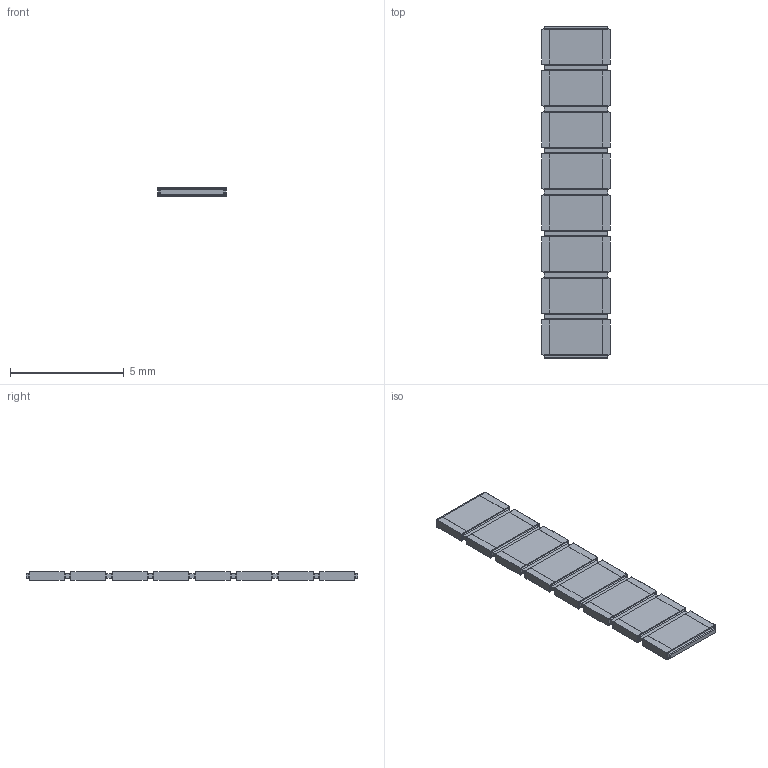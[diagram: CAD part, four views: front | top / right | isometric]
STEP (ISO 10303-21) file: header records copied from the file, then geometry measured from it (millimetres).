
FILE_DESCRIPTION(/* description */ (''),/* implementation_level */ '2;1');
FILE_NAME(/* name */ 'S:\DOCUMENT\AUTOCAD\3D_Modèles\10_3D-pour-VISHAY-COM\PRA\PRAHR182I8_B.stp',/* time_stamp */ '2018-02-02T10:53:52+01:00',/* author */ ('dparmentier'),/* organization */ ('unknown'),/* preprocessor_version */ 'ST-DEVELOPER v17',/* originating_system */ 'Autodesk Inventor 2018',/* authorisation */ '');
FILE_SCHEMA (('AUTOMOTIVE_DESIGN { 1 0 10303 214 3 1 1 }'));
Length unit declared in the file: millimetre
Products named in the file (1): PRAHR182I8_B
Bounding box: 3 x 14.6 x 0.38 mm (x, y, z)
Volume: 14.9 mm3; surface area: 156.6 mm2
Topology: 17 solids, 17 shells, 310 faces, 716 edges, 456 vertices
Faces by surface type: plane 246, cylinder 64
Entity records: 8609 total; most frequent: CARTESIAN_POINT 1483, ORIENTED_EDGE 1432, DIRECTION 1402, EDGE_CURVE 716, LINE 652, VECTOR 652, VERTEX_POINT 456, AXIS2_PLACEMENT_3D 375
